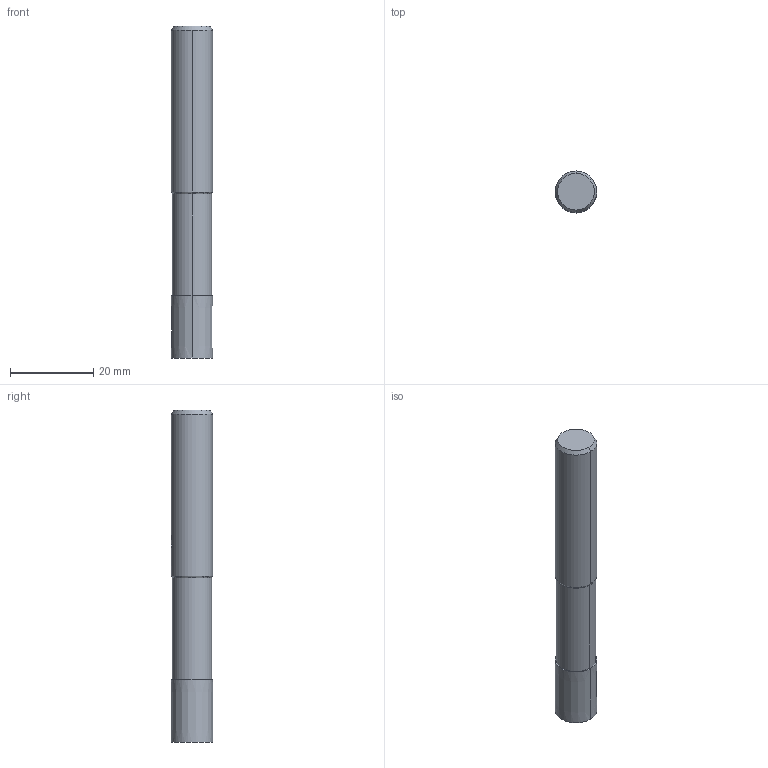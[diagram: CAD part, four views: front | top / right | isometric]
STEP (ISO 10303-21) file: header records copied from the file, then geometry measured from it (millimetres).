
FILE_DESCRIPTION(('no description'),'unknown implementation level');
FILE_NAME('solidpEM7mGsvxVq2FUGWlElxd1yIkKY_1.STP',' ',('CIMSOURCE GmbH'),('CADClick - KiM GmbH - www.kimweb.de'),'unknown preprocess','ACIS','unknown authorization');
FILE_SCHEMA(('automotive_design'));
Length unit declared in the file: millimetre
Products named in the file (2): NOCUT; CUT
Bounding box: 10 x 10 x 80 mm (x, y, z)
Volume: 6084.1 mm3; surface area: 3302 mm2
Topology: 2 solids, 2 shells, 41 faces, 93 edges, 58 vertices
Faces by surface type: cylinder 16, cone 14, plane 11
Entity records: 2522 total; most frequent: CARTESIAN_POINT 448, DIRECTION 211, STYLED_ITEM 194, PRESENTATION_STYLE_ASSIGNMENT 194, COLOUR_RGB 194, ORIENTED_EDGE 186, EDGE_CURVE 93, CURVE_STYLE 93
